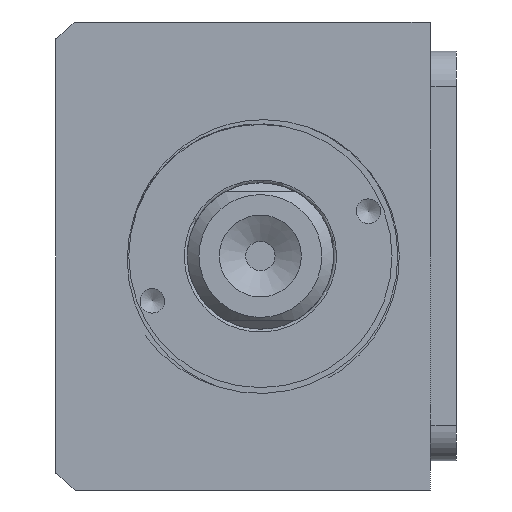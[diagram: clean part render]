
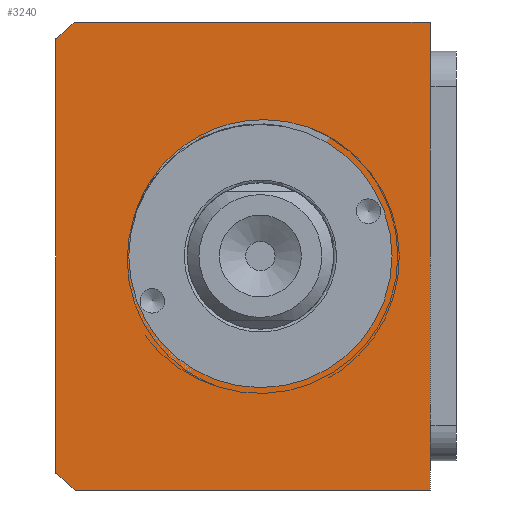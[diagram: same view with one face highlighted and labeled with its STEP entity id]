
A CAD part, front view. The second image highlights one B-rep face of the part: STEP entity #3240.
In plain terms, the highlighted planar face has unit normal (0, -1, 0).
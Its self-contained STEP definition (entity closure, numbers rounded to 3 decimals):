
#3240=ADVANCED_FACE('',(#3985,#3986),#3668,.T.);
#3668=PLANE('',#10702);
#3985=FACE_BOUND('',#4153,.T.);
#3986=FACE_BOUND('',#4154,.T.);
#4153=EDGE_LOOP('',(#6480));
#4154=EDGE_LOOP('',(#6481,#6482,#6483,#6484,#6485,#6486));
#4666=LINE('',#12910,#5489);
#4678=LINE('',#13107,#5501);
#4702=LINE('',#13160,#5525);
#4709=LINE('',#13180,#5532);
#5489=VECTOR('',#11112,1.);
#5501=VECTOR('',#11196,1.);
#5525=VECTOR('',#11226,1.);
#5532=VECTOR('',#11243,1.);
#6480=ORIENTED_EDGE('',*,*,#9480,.F.);
#6481=ORIENTED_EDGE('',*,*,#9483,.T.);
#6482=ORIENTED_EDGE('',*,*,#9518,.T.);
#6483=ORIENTED_EDGE('',*,*,#9509,.T.);
#6484=ORIENTED_EDGE('',*,*,#9519,.T.);
#6485=ORIENTED_EDGE('',*,*,#9446,.T.);
#6486=ORIENTED_EDGE('',*,*,#9520,.T.);
#8666=VERTEX_POINT('',#12909);
#8667=VERTEX_POINT('',#12911);
#8699=VERTEX_POINT('',#13100);
#8701=VERTEX_POINT('',#13105);
#8703=VERTEX_POINT('',#13108);
#8728=VERTEX_POINT('',#13159);
#8729=VERTEX_POINT('',#13161);
#9446=EDGE_CURVE('',#8667,#8666,#4666,.T.);
#9480=EDGE_CURVE('',#8699,#8699,#10587,.T.);
#9483=EDGE_CURVE('',#8703,#8701,#4678,.T.);
#9509=EDGE_CURVE('',#8729,#8728,#4702,.T.);
#9518=EDGE_CURVE('',#8701,#8729,#10593,.T.);
#9519=EDGE_CURVE('',#8728,#8667,#10594,.T.);
#9520=EDGE_CURVE('',#8666,#8703,#4709,.T.);
#10587=CIRCLE('',#10691,22.5);
#10593=CIRCLE('',#10700,51.);
#10594=CIRCLE('',#10701,51.);
#10691=AXIS2_PLACEMENT_3D('',#13099,#11189,#11190);
#10700=AXIS2_PLACEMENT_3D('',#13178,#11239,#11240);
#10701=AXIS2_PLACEMENT_3D('',#13179,#11241,#11242);
#10702=AXIS2_PLACEMENT_3D('',#13181,#11244,#11245);
#11112=DIRECTION('',(1.,0.,0.));
#11189=DIRECTION('',(0.,-1.,0.));
#11190=DIRECTION('',(0.,0.,-1.));
#11196=DIRECTION('',(-1.,0.,0.));
#11226=DIRECTION('',(0.,0.,-1.));
#11239=DIRECTION('',(0.,-1.,0.));
#11240=DIRECTION('',(0.,0.,-1.));
#11241=DIRECTION('',(0.,-1.,0.));
#11242=DIRECTION('',(0.,0.,-1.));
#11243=DIRECTION('',(0.,0.,1.));
#11244=DIRECTION('',(0.,-1.,0.));
#11245=DIRECTION('',(0.,0.,1.));
#12909=CARTESIAN_POINT('',(16.726,-44.192,-42.166));
#12910=CARTESIAN_POINT('',(16.726,-44.192,-42.166));
#12911=CARTESIAN_POINT('',(-43.913,-44.192,-42.166));
#13099=CARTESIAN_POINT('',(-12.274,-44.192,-2.166));
#13100=CARTESIAN_POINT('',(-12.274,-44.192,-24.666));
#13105=CARTESIAN_POINT('',(-43.913,-44.192,37.834));
#13107=CARTESIAN_POINT('',(16.726,-44.192,37.834));
#13108=CARTESIAN_POINT('',(16.726,-44.192,37.834));
#13159=CARTESIAN_POINT('',(-47.274,-44.192,-39.26));
#13160=CARTESIAN_POINT('',(-47.274,-44.192,37.834));
#13161=CARTESIAN_POINT('',(-47.274,-44.192,34.929));
#13178=CARTESIAN_POINT('',(-12.274,-44.192,-2.166));
#13179=CARTESIAN_POINT('',(-12.274,-44.192,-2.166));
#13180=CARTESIAN_POINT('',(16.726,-44.192,37.834));
#13181=CARTESIAN_POINT('',(-15.274,-44.192,-2.166));
